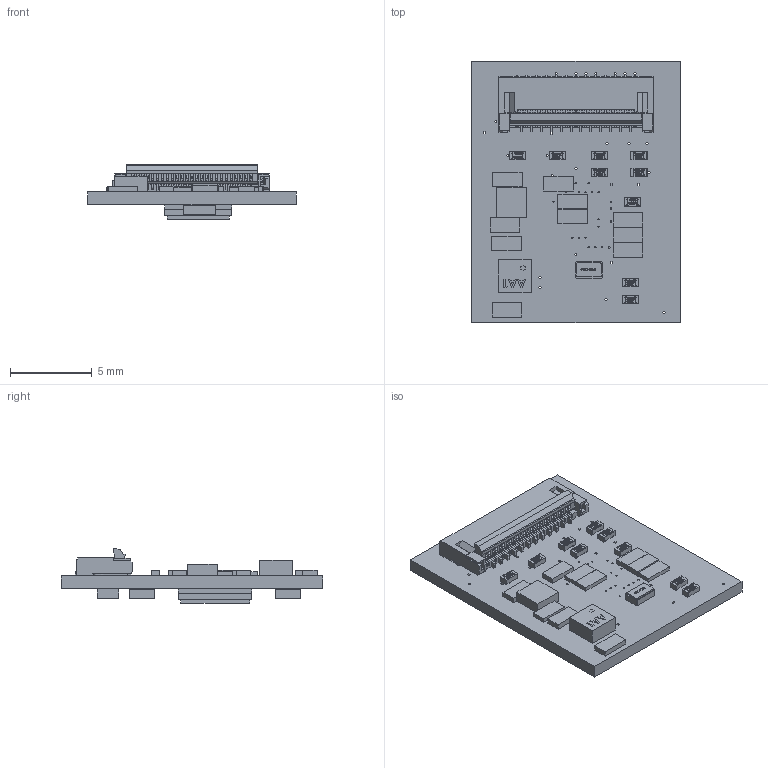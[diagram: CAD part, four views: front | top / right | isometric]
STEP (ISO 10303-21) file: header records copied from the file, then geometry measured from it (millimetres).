
FILE_DESCRIPTION (( 'STEP AP214' ), '1' );
FILE_NAME ('maxm86146_osb_evkit_a.STEP', '2019-11-20T02:11:57', ( '' ), ( '' ), 'SwSTEP 2.0', 'SolidWorks 2019', '' );
FILE_SCHEMA (( 'AUTOMOTIVE_DESIGN' ));
Length unit declared in the file: millimetre
Products named in the file (1): maxm86146_osb_evkit_a
Bounding box: 12.7 x 15.95 x 3.31 mm (x, y, z)
Topology: 40 solids, 44 shells, 3965 faces, 12292 edges, 8232 vertices
Faces by surface type: plane 2922, cylinder 872, bspline 171
Entity records: 184405 total; most frequent: CARTESIAN_POINT 32638, ORIENTED_EDGE 24304, DIRECTION 19855, EDGE_CURVE 12152, LINE 9123, VECTOR 9123, VERTEX_POINT 8233, AXIS2_PLACEMENT_3D 5366
